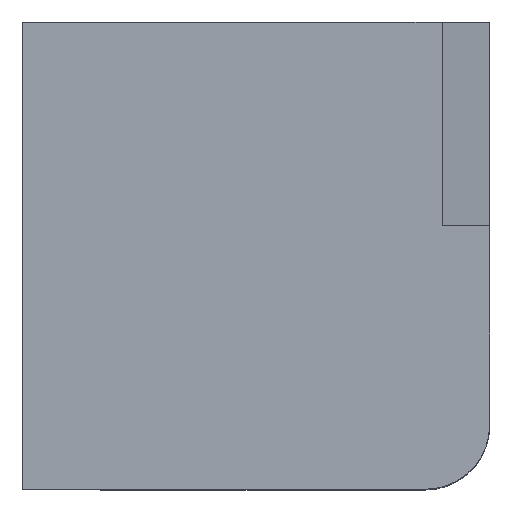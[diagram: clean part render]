
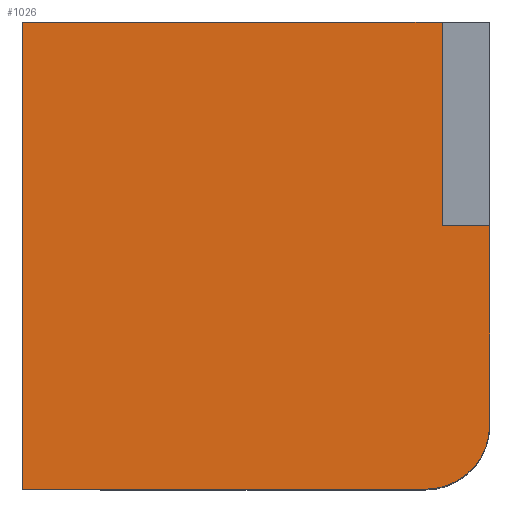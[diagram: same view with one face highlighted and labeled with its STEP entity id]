
A CAD part, top view. The second image highlights one B-rep face of the part: STEP entity #1026.
In plain terms, the highlighted planar face has unit normal (0, 0, 1).
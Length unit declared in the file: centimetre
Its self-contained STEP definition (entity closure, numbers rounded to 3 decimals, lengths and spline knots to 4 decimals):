
#13 = CARTESIAN_POINT ( 'NONE',  ( 1000., 137.1034, 1000. ) ) ;
#29 = EDGE_CURVE ( 'NONE', #561, #738, #800, .T. ) ;
#55 = CARTESIAN_POINT ( 'NONE',  ( 0., 0., 1000. ) ) ;
#106 = CARTESIAN_POINT ( 'NONE',  ( 0., 0., 1000. ) ) ;
#113 = LINE ( 'NONE', #601, #504 ) ;
#121 = CARTESIAN_POINT ( 'NONE',  ( 898.2157, 563.6741, 1000. ) ) ;
#131 = DIRECTION ( 'NONE',  ( 0., 0., 1. ) ) ;
#138 = EDGE_CURVE ( 'NONE', #223, #655, #198, .T. ) ;
#142 = VECTOR ( 'NONE', #987, 100. ) ;
#144 = CARTESIAN_POINT ( 'NONE',  ( 898.2157, 563.6741, 1000. ) ) ;
#159 = ORIENTED_EDGE ( 'NONE', *, *, #138, .T. ) ;
#189 = DIRECTION ( 'NONE',  ( -1., 0., 0. ) ) ;
#198 = CIRCLE ( 'NONE', #887, 137.1034 ) ;
#222 = CARTESIAN_POINT ( 'NONE',  ( 0., 1000., 1000. ) ) ;
#223 = VERTEX_POINT ( 'NONE', #641 ) ;
#230 = ORIENTED_EDGE ( 'NONE', *, *, #29, .T. ) ;
#231 = ORIENTED_EDGE ( 'NONE', *, *, #523, .T. ) ;
#305 = EDGE_CURVE ( 'NONE', #1078, #346, #982, .T. ) ;
#316 = DIRECTION ( 'NONE',  ( 0., 1., 0. ) ) ;
#326 = FACE_OUTER_BOUND ( 'NONE', #742, .T. ) ;
#332 = EDGE_CURVE ( 'NONE', #738, #223, #421, .T. ) ;
#346 = VERTEX_POINT ( 'NONE', #605 ) ;
#351 = VECTOR ( 'NONE', #768, 100. ) ;
#358 = DIRECTION ( 'NONE',  ( 1., 0., 0. ) ) ;
#390 = CARTESIAN_POINT ( 'NONE',  ( 0., 1000., 1000. ) ) ;
#421 = LINE ( 'NONE', #55, #142 ) ;
#453 = AXIS2_PLACEMENT_3D ( 'NONE', #519, #131, #990 ) ;
#504 = VECTOR ( 'NONE', #985, 100. ) ;
#519 = CARTESIAN_POINT ( 'NONE',  ( 0., 0., 1000. ) ) ;
#523 = EDGE_CURVE ( 'NONE', #346, #561, #1141, .T. ) ;
#539 = DIRECTION ( 'NONE',  ( 0., 0., 1. ) ) ;
#561 = VERTEX_POINT ( 'NONE', #955 ) ;
#601 = CARTESIAN_POINT ( 'NONE',  ( 898.2157, 563.6741, 1000. ) ) ;
#604 = VECTOR ( 'NONE', #316, 100. ) ;
#605 = CARTESIAN_POINT ( 'NONE',  ( 898.2157, 1000., 1000. ) ) ;
#641 = CARTESIAN_POINT ( 'NONE',  ( 862.8966, 0., 1000. ) ) ;
#649 = VERTEX_POINT ( 'NONE', #864 ) ;
#655 = VERTEX_POINT ( 'NONE', #13 ) ;
#678 = VECTOR ( 'NONE', #988, 100. ) ;
#707 = PLANE ( 'NONE',  #453 ) ;
#738 = VERTEX_POINT ( 'NONE', #106 ) ;
#742 = EDGE_LOOP ( 'NONE', ( #846, #231, #230, #1051, #159, #1186, #1007 ) ) ;
#768 = DIRECTION ( 'NONE',  ( 0., 1., 0. ) ) ;
#800 = LINE ( 'NONE', #222, #678 ) ;
#841 = CARTESIAN_POINT ( 'NONE',  ( 1000., 1000., 1000. ) ) ;
#846 = ORIENTED_EDGE ( 'NONE', *, *, #305, .T. ) ;
#853 = EDGE_CURVE ( 'NONE', #655, #649, #1148, .T. ) ;
#864 = CARTESIAN_POINT ( 'NONE',  ( 1000., 563.6741, 1000. ) ) ;
#887 = AXIS2_PLACEMENT_3D ( 'NONE', #914, #539, #358 ) ;
#914 = CARTESIAN_POINT ( 'NONE',  ( 862.8966, 137.1034, 1000. ) ) ;
#955 = CARTESIAN_POINT ( 'NONE',  ( 0., 1000., 1000. ) ) ;
#978 = EDGE_CURVE ( 'NONE', #1078, #649, #113, .T. ) ;
#982 = LINE ( 'NONE', #121, #604 ) ;
#985 = DIRECTION ( 'NONE',  ( 1., 0., 0. ) ) ;
#987 = DIRECTION ( 'NONE',  ( 1., 0., 0. ) ) ;
#988 = DIRECTION ( 'NONE',  ( 0., -1., 0. ) ) ;
#990 = DIRECTION ( 'NONE',  ( 1., 0., 0. ) ) ;
#1007 = ORIENTED_EDGE ( 'NONE', *, *, #978, .F. ) ;
#1026 = ADVANCED_FACE ( 'NONE', ( #326 ), #707, .T. ) ;
#1051 = ORIENTED_EDGE ( 'NONE', *, *, #332, .T. ) ;
#1078 = VERTEX_POINT ( 'NONE', #144 ) ;
#1141 = LINE ( 'NONE', #390, #1175 ) ;
#1148 = LINE ( 'NONE', #841, #351 ) ;
#1175 = VECTOR ( 'NONE', #189, 100. ) ;
#1186 = ORIENTED_EDGE ( 'NONE', *, *, #853, .T. ) ;
